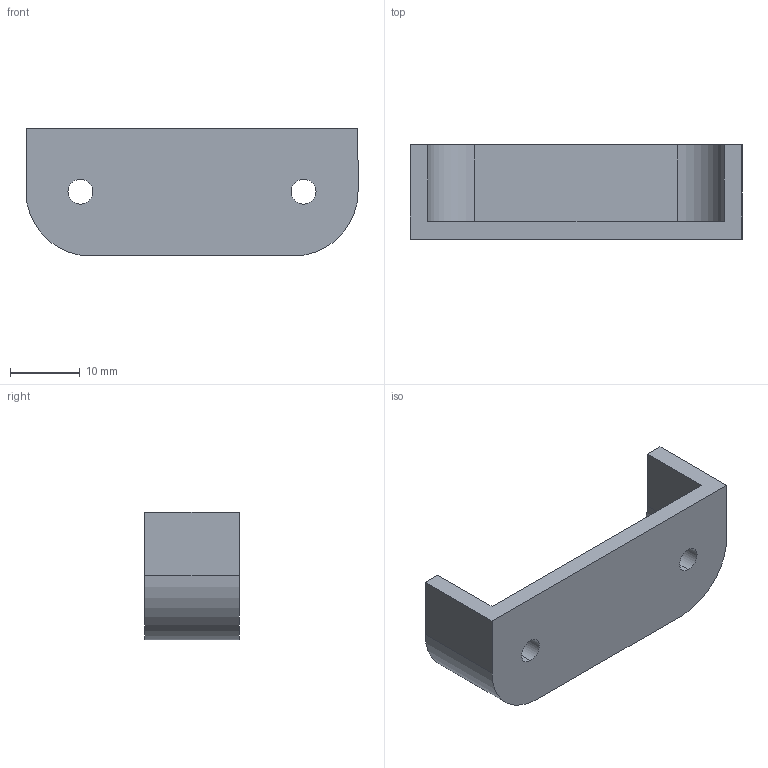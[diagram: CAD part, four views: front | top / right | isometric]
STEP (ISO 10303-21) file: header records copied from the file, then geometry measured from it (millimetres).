
FILE_DESCRIPTION (( 'STEP AP214' ), '1' );
FILE_NAME ('5070_V01_POCKET_OPEN_SGL_CLIP_SER.STEP', '2025-07-07T17:33:53', ( '' ), ( '' ), 'SwSTEP 2.0', 'SolidWorks 2025', '' );
FILE_SCHEMA (( 'AUTOMOTIVE_DESIGN' ));
Length unit declared in the file: inch
Products named in the file (1): 5070_V01_POCKET_OPEN_SGL_CLIP_SER
Bounding box: 47.6 x 13.54 x 18.34 mm (x, y, z)
Volume: 4096.4 mm3; surface area: 3653 mm2
Topology: 1 solids, 1 shells, 18 faces, 48 edges, 32 vertices
Faces by surface type: plane 10, cylinder 8
Entity records: 603 total; most frequent: DIRECTION 102, CARTESIAN_POINT 99, ORIENTED_EDGE 96, EDGE_CURVE 48, AXIS2_PLACEMENT_3D 35, LINE 32, VECTOR 32, VERTEX_POINT 32
